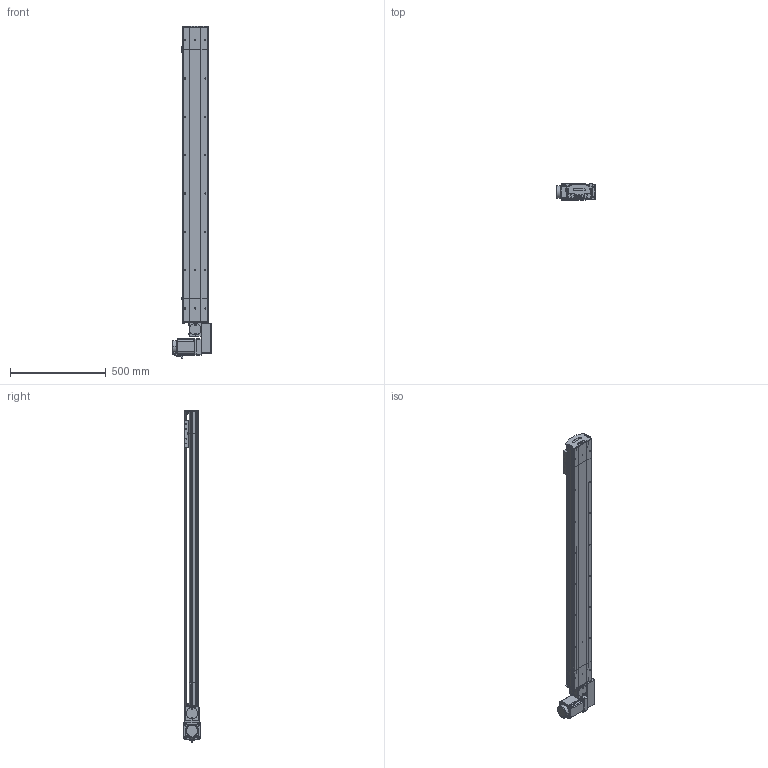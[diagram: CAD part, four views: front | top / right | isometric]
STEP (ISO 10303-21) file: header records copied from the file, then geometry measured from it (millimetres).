
FILE_DESCRIPTION (( 'STEP AP214' ), '1' );
FILE_NAME ('D14 TBH LH S1300.STEP', '2010-06-29T13:56:59', ( 'Conseil Régional Haute-Normandie' ), ( 'Conseil Régional Haute-Normandie' ), 'SwSTEP 2.0', 'SolidWorks 2010', '' );
FILE_SCHEMA (( 'AUTOMOTIVE_DESIGN' ));
Length unit declared in the file: millimetre
Products named in the file (39): poulie head_Default; D14 TB H LH_Default; vis M5 L8 90°_Default; couvercle D14_Default; plaque de  bout tail D14_Default; vis M5 L16_Default; vis M5 L12_Default; Arbre+rail head D14; plaque de  bout head D14 LH_Default; corpl 1300_Default; tete d''axe haut D14; corp head D14_Default; Rail + couroie D14 Course 1300 ; D14 TBH LH S1300; corpl tail D14_Default; Arbre+rail tail D14; couvercle D14 course L1300_Default; D14 couroie L1300_Default; Couroie_Default; poulie tail_Default; Tail D14B_Default; Conecteur_Default; Conecteur2_Default; codeur 90BLDC100-640; Moteur motionking 90BLDC100A-640; vis M5 L5_Default; corps 90BLDC100A-640; couvercle D14 head_Default; couroie 2_Default; Plaque racord D14_Default; avant 90BLDC100A-640; renvoi LH_Default; Cache arbre_Default; Cache_Default; Chariot D14; chariot D14B_Default; Cvis M5 L70_Default; Vis M5 L16-2_Default; guide D14
Assembly tree (68 placements, depth 4):
  D14 TBH LH S1300
    D14 couroie L1300_Default
      couvercle D14 course L1300_Default
      corpl 1300_Default
      Rail + couroie D14 Course 1300 
    Tail D14B_Default
      Couroie_Default
      Arbre+rail tail D14
      vis M5 L12_Default  x4
      couvercle D14_Default
      vis M5 L8 90°_Default  x2
      vis M5 L16_Default  x2
      poulie tail_Default
      tete d''axe haut D14
      corpl tail D14_Default
      plaque de  bout tail D14_Default
    D14 TB H LH_Default
      vis M5 L12_Default  x12
      renvoi LH_Default
      Cvis M5 L70_Default  x4
      Vis M5 L16-2_Default  x4
      couroie 2_Default
      vis M5 L5_Default  x2
      Cache arbre_Default
      Arbre+rail head D14
      plaque de  bout head D14 LH_Default
      corp head D14_Default
      Plaque racord D14_Default
      Moteur motionking 90BLDC100A-640
        corps 90BLDC100A-640
        Conecteur2_Default
        Conecteur_Default
        codeur 90BLDC100-640
        avant 90BLDC100A-640
      poulie head_Default
      Cache_Default  x2
      couvercle D14 head_Default
    chariot D14B_Default
      vis M5 L12_Default  x4
      Chariot D14
      guide D14  x2
Bounding box: 207.2 x 85.9 x 1732.45 mm (x, y, z)
Volume: 7001328.9 mm3; surface area: 2331407.4 mm2
Topology: 92 solids, 92 shells, 2629 faces, 6431 edges, 4146 vertices
Faces by surface type: plane 1589, cylinder 727, bspline 136, torus 89, cone 84, sphere 4
Entity records: 79172 total; most frequent: CARTESIAN_POINT 23545, ORIENTED_EDGE 9722, DIRECTION 9496, EDGE_CURVE 4861, VECTOR 3274, LINE 3274, VERTEX_POINT 3196, AXIS2_PLACEMENT_3D 3111
